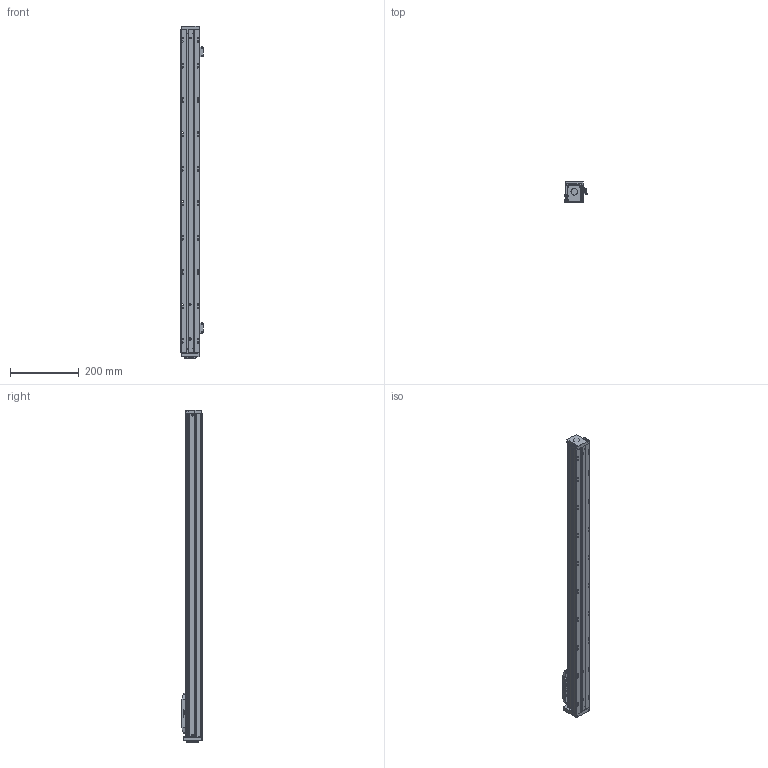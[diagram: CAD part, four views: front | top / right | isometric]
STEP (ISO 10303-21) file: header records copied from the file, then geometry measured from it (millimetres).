
FILE_DESCRIPTION (( 'STEP AP203' ), '1' );
FILE_NAME ('KTH5-L10-S800.STEP', '2019-12-19T08:42:26', ( '微软用户' ), ( '微软中国' ), 'SwSTEP 2.0', 'SolidWorks 2017', '' );
FILE_SCHEMA (( 'CONFIG_CONTROL_DESIGN' ));
Length unit declared in the file: millimetre
Products named in the file (16): ヶ裔-党蜊唳; 耜啣; 粣創釱-郔笝唳20190813; 階裔; 嫖萇羲壽諉揖え; 棠沭; EE-SX674; LES50-013癹弇菜; EE-SX674WR嫖萇羲壽假蚾啣; 詩湍; KTH5-L10-S800; 詩湍揤啣; GB╱T 70.1-2008[内六角圆柱头螺钉M4×16]_M4×16; LES50-001菁釱; GB╱T 70.2-2008[内六角平圆头螺钉M3×10]_M3×10; LES50-004賑釱
Assembly tree (31 placements, depth 2):
  KTH5-L10-S800
    LES50-001菁釱
    LES50-004賑釱
    耜啣  x2
    階裔
    棠沭  x2
    LES50-013癹弇菜  x2
    詩湍
    詩湍揤啣  x2
    GB╱T 70.1-2008[内六角圆柱头螺钉M4×16]_M4×16  x4
    GB╱T 70.2-2008[内六角平圆头螺钉M3×10]_M3×10  x8
    ヶ裔-党蜊唳
    粣創釱-郔笝唳20190813
    嫖萇羲壽諉揖え
    EE-SX674  x2
    EE-SX674WR嫖萇羲壽假蚾啣  x2
Bounding box: 64.25 x 60 x 965 mm (x, y, z)
Volume: 884049.8 mm3; surface area: 474000.8 mm2
Topology: 31 solids, 31 shells, 1441 faces, 3500 edges, 2138 vertices
Faces by surface type: plane 654, cylinder 479, cone 244, torus 36, sphere 16, bspline 12
Entity records: 33434 total; most frequent: CARTESIAN_POINT 5925, DIRECTION 5476, ORIENTED_EDGE 5044, EDGE_CURVE 2522, AXIS2_PLACEMENT_3D 1944, VERTEX_POINT 1603, LINE 1588, VECTOR 1588
